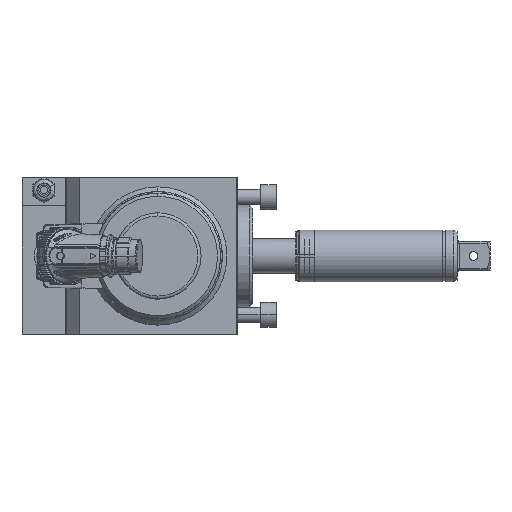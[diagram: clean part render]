
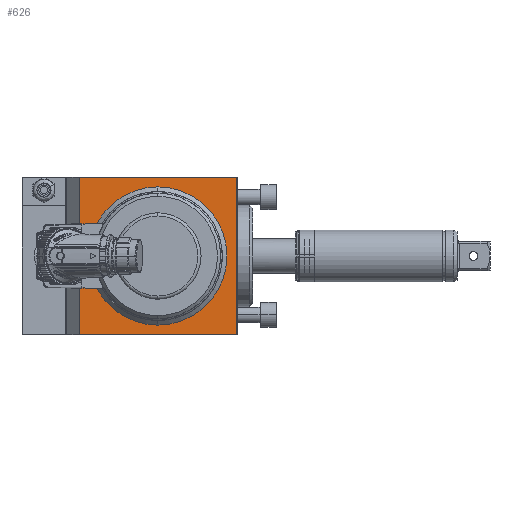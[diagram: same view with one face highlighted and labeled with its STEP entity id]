
A CAD part, left-side view. The second image highlights one B-rep face of the part: STEP entity #626.
In plain terms, the highlighted planar face has unit normal (-1, 0, 0).
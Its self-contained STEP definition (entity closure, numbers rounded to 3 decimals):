
#626 = ADVANCED_FACE ( 'NONE', ( #2571, #67327 ), #8734, .T. ) ;
#945 = CARTESIAN_POINT ( 'NONE',  ( -84., 100.5, 50. ) ) ;
#1280 = CARTESIAN_POINT ( 'NONE',  ( -84., 50.5, 0. ) ) ;
#2571 = FACE_OUTER_BOUND ( 'NONE', #52584, .T. ) ;
#2702 = ORIENTED_EDGE ( 'NONE', *, *, #94254, .T. ) ;
#3968 = DIRECTION ( 'NONE',  ( 1., 0., 0. ) ) ;
#6348 = AXIS2_PLACEMENT_3D ( 'NONE', #1280, #60423, #9784 ) ;
#8734 = PLANE ( 'NONE',  #60779 ) ;
#9784 = DIRECTION ( 'NONE',  ( 0., 0., 1. ) ) ;
#10423 = CIRCLE ( 'NONE', #27272, 44. ) ;
#10489 = CARTESIAN_POINT ( 'NONE',  ( -84., 0.5, 50. ) ) ;
#15482 = LINE ( 'NONE', #10489, #80279 ) ;
#17227 = CARTESIAN_POINT ( 'NONE',  ( -84., 50.5, 0. ) ) ;
#19169 = LINE ( 'NONE', #945, #21824 ) ;
#21548 = CARTESIAN_POINT ( 'NONE',  ( -84., 0.5, 50. ) ) ;
#21824 = VECTOR ( 'NONE', #60049, 1000. ) ;
#24230 = ORIENTED_EDGE ( 'NONE', *, *, #95807, .F. ) ;
#24862 = VERTEX_POINT ( 'NONE', #28570 ) ;
#25687 = DIRECTION ( 'NONE',  ( 0., 0., 1. ) ) ;
#26720 = VERTEX_POINT ( 'NONE', #32082 ) ;
#27272 = AXIS2_PLACEMENT_3D ( 'NONE', #54629, #3968, #63105 ) ;
#27456 = DIRECTION ( 'NONE',  ( 0., 0., -1. ) ) ;
#28570 = CARTESIAN_POINT ( 'NONE',  ( -84., 50.5, 44. ) ) ;
#32082 = CARTESIAN_POINT ( 'NONE',  ( -84., 0.5, -50. ) ) ;
#33107 = CARTESIAN_POINT ( 'NONE',  ( -84., 0.5, 50. ) ) ;
#33588 = VERTEX_POINT ( 'NONE', #67152 ) ;
#36002 = ORIENTED_EDGE ( 'NONE', *, *, #44792, .F. ) ;
#39504 = EDGE_LOOP ( 'NONE', ( #60533, #2702 ) ) ;
#41825 = VERTEX_POINT ( 'NONE', #58332 ) ;
#42820 = ORIENTED_EDGE ( 'NONE', *, *, #85818, .F. ) ;
#44792 = EDGE_CURVE ( 'NONE', #69613, #26720, #15482, .T. ) ;
#52584 = EDGE_LOOP ( 'NONE', ( #36002, #42820, #24230, #66181 ) ) ;
#54629 = CARTESIAN_POINT ( 'NONE',  ( -84., 50.5, 0. ) ) ;
#56389 = EDGE_CURVE ( 'NONE', #24862, #41825, #10423, .T. ) ;
#58332 = CARTESIAN_POINT ( 'NONE',  ( -84., 50.5, -44. ) ) ;
#60049 = DIRECTION ( 'NONE',  ( 0., 0., 1. ) ) ;
#60423 = DIRECTION ( 'NONE',  ( 1., 0., 0. ) ) ;
#60533 = ORIENTED_EDGE ( 'NONE', *, *, #56389, .T. ) ;
#60779 = AXIS2_PLACEMENT_3D ( 'NONE', #17227, #76373, #25687 ) ;
#63105 = DIRECTION ( 'NONE',  ( 0., 0., 1. ) ) ;
#66181 = ORIENTED_EDGE ( 'NONE', *, *, #90741, .F. ) ;
#66431 = VECTOR ( 'NONE', #97105, 1000. ) ;
#67152 = CARTESIAN_POINT ( 'NONE',  ( -84., 100.5, -50. ) ) ;
#67327 = FACE_BOUND ( 'NONE', #39504, .T. ) ;
#67935 = VERTEX_POINT ( 'NONE', #71123 ) ;
#69613 = VERTEX_POINT ( 'NONE', #33107 ) ;
#71123 = CARTESIAN_POINT ( 'NONE',  ( -84., 100.5, 50. ) ) ;
#72853 = VECTOR ( 'NONE', #80696, 1000. ) ;
#76373 = DIRECTION ( 'NONE',  ( -1., 0., 0. ) ) ;
#80201 = CARTESIAN_POINT ( 'NONE',  ( -84., 0.5, -50. ) ) ;
#80279 = VECTOR ( 'NONE', #27456, 1000. ) ;
#80696 = DIRECTION ( 'NONE',  ( 0., -1., 0. ) ) ;
#85818 = EDGE_CURVE ( 'NONE', #67935, #69613, #92644, .T. ) ;
#88953 = LINE ( 'NONE', #80201, #66431 ) ;
#89360 = CIRCLE ( 'NONE', #6348, 44. ) ;
#90741 = EDGE_CURVE ( 'NONE', #26720, #33588, #88953, .T. ) ;
#92644 = LINE ( 'NONE', #21548, #72853 ) ;
#94254 = EDGE_CURVE ( 'NONE', #41825, #24862, #89360, .T. ) ;
#95807 = EDGE_CURVE ( 'NONE', #33588, #67935, #19169, .T. ) ;
#97105 = DIRECTION ( 'NONE',  ( 0., 1., 0. ) ) ;
